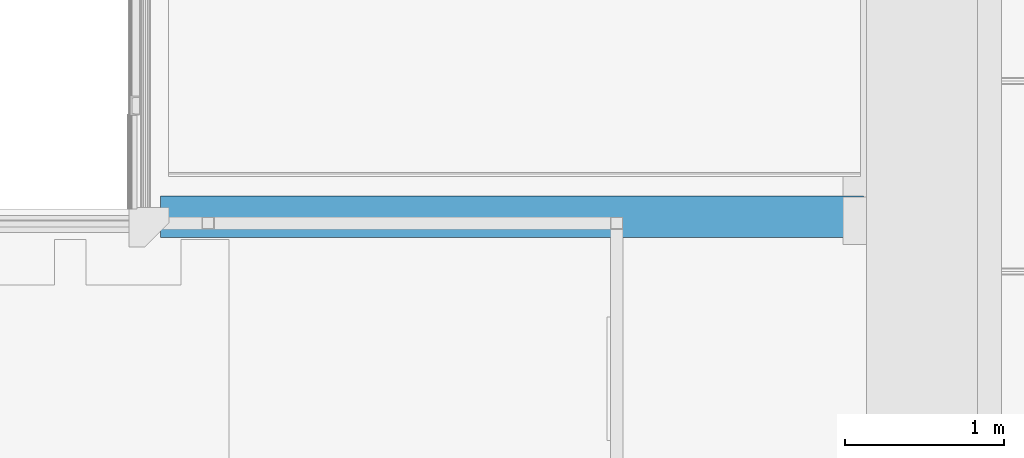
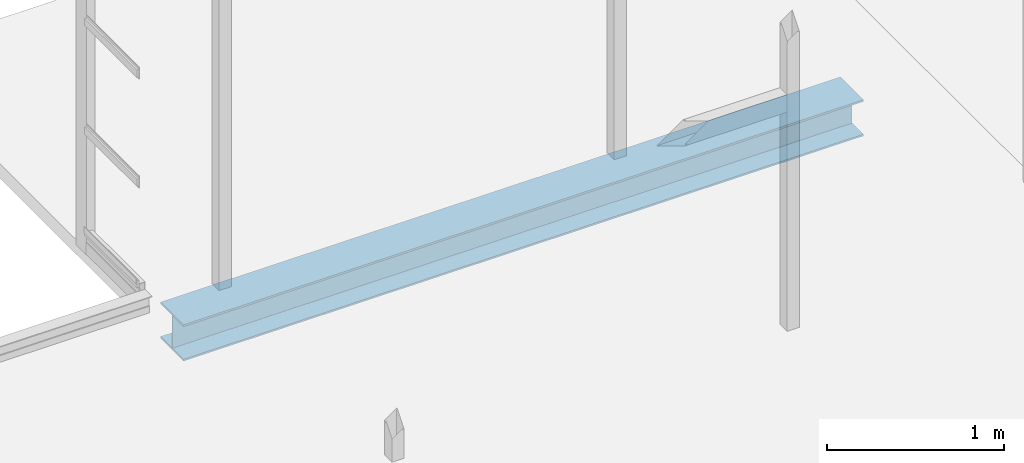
# One storey, part 8 of 15: 1 beam.
"""IFC2X3 building model written with IfcOpenShell, lengths in millimetres."""

from ifc_helpers import new_model, entity, si_unit, converted_unit, derived_unit, direction, frame, origin_with_axes, place, context, subcontext, project, spatial, faceted_brep, material, type_object, element, save


model = new_model("IFC2X3")

# Units and contexts
model_context = context("Model", 3, precision=0.01, world=frame((0.0, 4.29681676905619e-09, 0.0)), true_north=direction((4.01073788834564e-13, 1.0)))
plan_context = context("Plan", 3, precision=0.01, world=frame((0.0, 4.29681676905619e-09, 0.0)), true_north=direction((4.01073788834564e-13, 1.0)))
body_context = subcontext(model_context, "Body", "Model", "MODEL_VIEW")
ifc_project = project(units=[converted_unit("PLANEANGLEUNIT", "DEGREE", entity("IfcPositiveLengthMeasure", 0.0174532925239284), si_unit("PLANEANGLEUNIT", "RADIAN"), dimensions=[0, 0, 0, 0, 0, 0, 0]), si_unit("AREAUNIT", "SQUARE_METRE"), si_unit("LENGTHUNIT", "METRE", prefix="MILLI"), si_unit("MASSUNIT", "GRAM", prefix="KILO"), si_unit("POWERUNIT", "WATT"), si_unit("PRESSUREUNIT", "PASCAL", prefix="KILO"), si_unit("FORCEUNIT", "NEWTON", prefix="KILO"), si_unit("ELECTRICVOLTAGEUNIT", "VOLT"), si_unit("ELECTRICCURRENTUNIT", "AMPERE"), si_unit("THERMODYNAMICTEMPERATUREUNIT", "DEGREE_CELSIUS"), si_unit("TIMEUNIT", "SECOND"), si_unit("VOLUMEUNIT", "CUBIC_METRE"), derived_unit("LINEARVELOCITYUNIT", [(si_unit("LENGTHUNIT", "METRE"), 1), (si_unit("TIMEUNIT", "SECOND"), -1)]), derived_unit("VOLUMETRICFLOWRATEUNIT", [(si_unit("VOLUMEUNIT", "CUBIC_METRE"), 1), (si_unit("TIMEUNIT", "SECOND"), -1)]), derived_unit("THERMALTRANSMITTANCEUNIT", [(si_unit("POWERUNIT", "WATT"), 1), (si_unit("THERMODYNAMICTEMPERATUREUNIT", "KELVIN"), -1), (si_unit("AREAUNIT", "SQUARE_METRE"), -1)]), derived_unit("SOUNDPRESSUREUNIT", [(si_unit("PRESSUREUNIT", "PASCAL"), 1)])], contexts=[model_context, plan_context])

# Site, building, storey
site_placement = place(None, frame((0.0, -4.29681676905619e-09, 0.0), z_axis=(0.0, 0.0, 1.0), x_axis=(1.0, 0.0, 0.0)))
site = spatial("IfcSite", under=ifc_project, at=site_placement, Name="Gardermoen", CompositionType="ELEMENT")
building_placement = place(site_placement, frame((0.0, 4.29681676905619e-09, 0.0), z_axis=(0.0, 0.0, 1.0), x_axis=(1.0, 0.0, 0.0)))
building = spatial("IfcBuilding", under=site, at=building_placement, Name="TG", CompositionType="ELEMENT")
storey_placement = place(building_placement, origin_with_axes())
storey = spatial("IfcBuildingStorey", under=building, at=storey_placement, Name="F", CompositionType="ELEMENT", Elevation=0.0)

# Beam
ifc_material = material(Name="STEEL/S355")
beam_type = type_object("IfcBeamType", Name="HEA260", PredefinedType="NOTDEFINED")
beam_placement = place(storey_placement, frame((326199.997588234, 464644.821182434, 209890.0), z_axis=(0.0, 0.0, 1.0), x_axis=(1.0, 0.0, 0.0)))
element("IfcBeam", 1, at=beam_placement, inside=storey, type_object=beam_type, material=ifc_material, Name="STÅLBJELKE", ObjectType="HEA260", context=body_context, shape_type="Brep", body=[
    faceted_brep([(0.0, 130.0, -125.0), (2.21189111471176e-09, 130.0, -112.500000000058), (4430.00287930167, 130.0, -112.5), (4430.00287930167, 130.0, -125.0), (0.0, 3.75, -112.5), (4430.00287930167, 3.75, -112.5), (0.0, 3.75, 112.5), (4430.00287930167, 3.75, 112.5), (-2.21189111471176e-09, 130.0, 112.499999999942), (4430.00287930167, 130.0, 112.5), (0.0, 130.0, 125.0), (4430.00287930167, 130.0, 125.0), (0.0, -130.0, 125.0), (4430.00287930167, -130.0, 125.0), (-2.21189111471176e-09, -130.0, 112.499999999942), (4430.00287930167, -130.0, 112.5), (0.0, -3.75, 112.5), (4430.00287930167, -3.75, 112.5), (0.0, -3.75, -112.5), (4430.00287930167, -3.75, -112.5), (2.21189111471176e-09, -130.0, -112.500000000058), (4430.00287930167, -130.0, -112.5), (0.0, -130.0, -125.0), (4430.00287930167, -130.0, -125.0)], [[[0, 1, 2, 3]], [[1, 4, 5, 2]], [[4, 6, 7, 5]], [[6, 8, 9, 7]], [[8, 10, 11, 9]], [[10, 12, 13, 11]], [[12, 14, 15, 13]], [[14, 16, 17, 15]], [[16, 18, 19, 17]], [[18, 20, 21, 19]], [[20, 22, 23, 21]], [[22, 0, 3, 23]], [[5, 7, 9, 11, 13, 15, 17, 19, 21, 23, 3, 2]], [[22, 20, 18, 16, 14, 12, 10, 8, 6, 4, 1, 0]]]),
])

save(model, "model.ifc")
